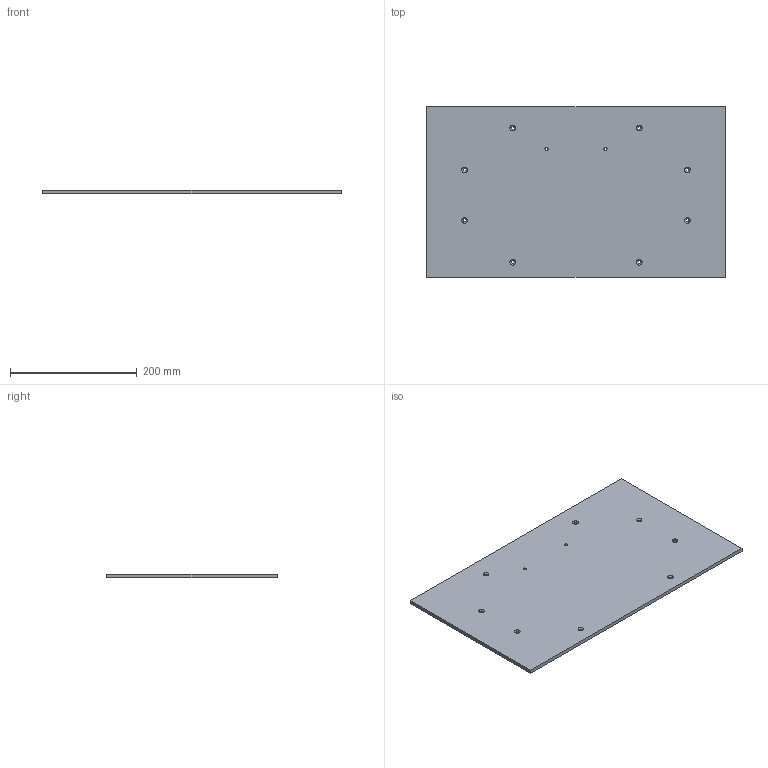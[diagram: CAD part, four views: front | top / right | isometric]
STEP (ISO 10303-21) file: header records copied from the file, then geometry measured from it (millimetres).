
FILE_DESCRIPTION (( 'STEP AP203' ), '1' );
FILE_NAME ('Planche_Porte_Derrière_Grande.STEP', '2026-06-24T07:29:49', ( '' ), ( '' ), 'SwSTEP 2.0', 'SolidWorks 2024', '' );
FILE_SCHEMA (( 'CONFIG_CONTROL_DESIGN' ));
Length unit declared in the file: millimetre
Products named in the file (1): Planche_Porte_Derrière_Grande
Bounding box: 472 x 270 x 6 mm (x, y, z)
Volume: 763143.6 mm3; surface area: 264228.2 mm2
Topology: 1 solids, 1 shells, 24 faces, 66 edges, 44 vertices
Faces by surface type: cylinder 10, cone 8, plane 6
Full cylindrical faces by diameter (mm): 5 x10
Entity records: 731 total; most frequent: DIRECTION 118, CARTESIAN_POINT 101, ORIENTED_EDGE 80, EDGE_LOOP 62, AXIS2_PLACEMENT_3D 53, EDGE_CURVE 40, VERTEX_POINT 36, FACE_OUTER_BOUND 34
